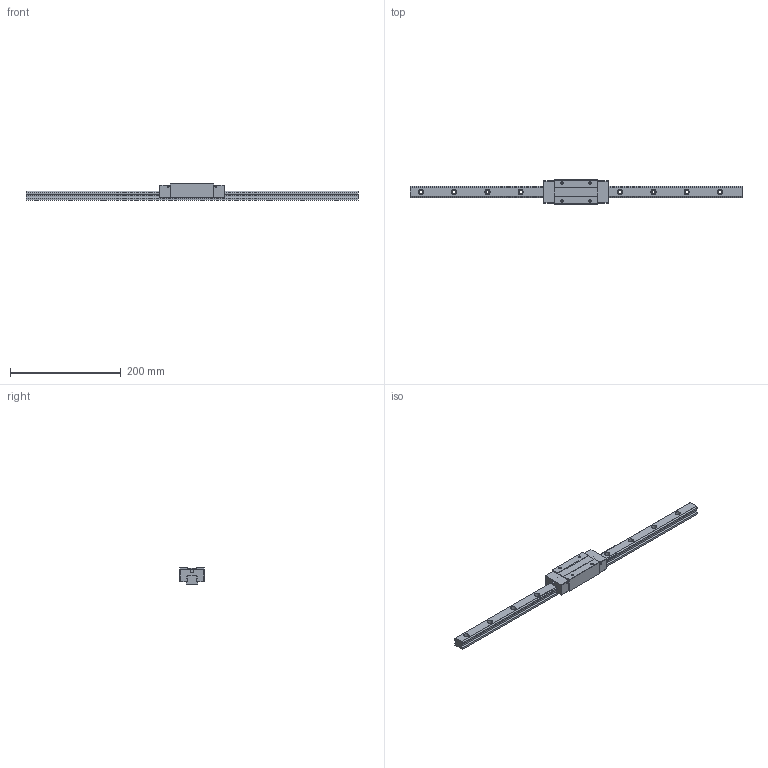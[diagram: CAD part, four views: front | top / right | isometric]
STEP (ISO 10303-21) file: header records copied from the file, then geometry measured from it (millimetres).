
FILE_DESCRIPTION (( 'STEP AP203' ), '1' );
FILE_NAME ('TRH20VE-DU.STEP', '2024-07-10T06:57:09', ( '' ), ( '' ), 'SwSTEP 2.0', 'SolidWorks 2022', '' );
FILE_SCHEMA (( 'CONFIG_CONTROL_DESIGN' ));
Length unit declared in the file: millimetre
Products named in the file (1): TRH20VE-DU
Bounding box: 600 x 44 x 30 mm (x, y, z)
Volume: 265308.3 mm3; surface area: 70796.6 mm2
Topology: 2 solids, 2 shells, 196 faces, 512 edges, 332 vertices
Faces by surface type: cylinder 96, plane 84, cone 16
Entity records: 6127 total; most frequent: DIRECTION 1098, CARTESIAN_POINT 1033, ORIENTED_EDGE 1008, EDGE_CURVE 504, AXIS2_PLACEMENT_3D 397, VERTEX_POINT 332, VECTOR 304, LINE 304
